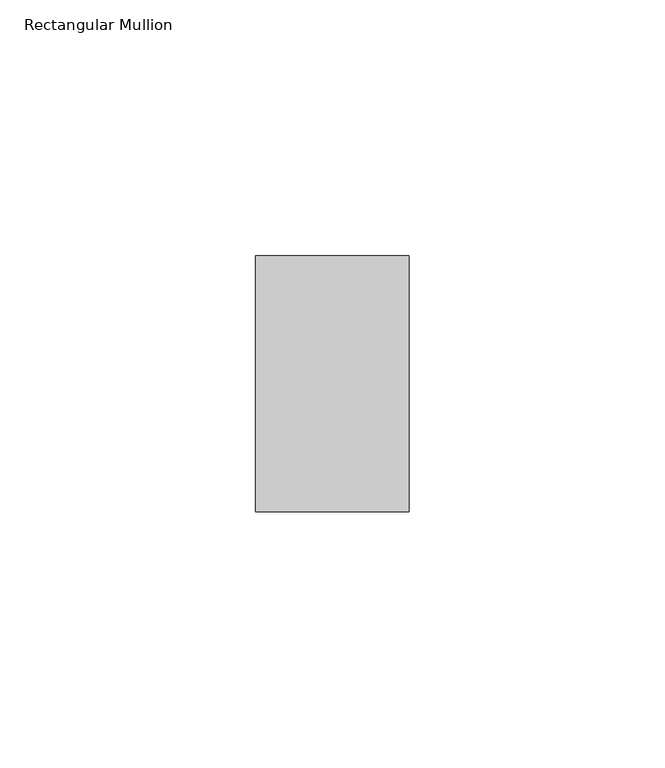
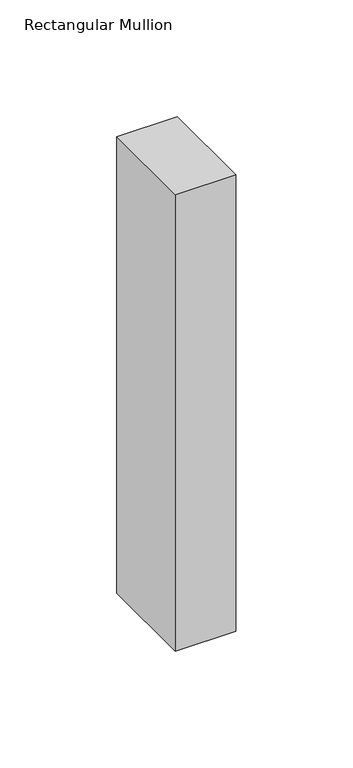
"""IFC4 building model written with IfcOpenShell, lengths in millimetres: member geometry, Rectangular Mullion : ARQ_TV_MULL_50x30mm."""

import ifcopenshell
import ifcopenshell.guid

model = None  # the IFC model being written
_history = None  # IfcOwnerHistory: only IFC2X3 demands one
_inside = {}  # id of a spatial element -> (the spatial element, [elements in it])
_under = {}  # id of a project, library or spatial element -> (it, [spatial elements below it])
_declared = {}  # id of a project -> (the project, [libraries it declares])
_typed = {}  # id of a type object -> (the type object, [elements of that type])
_made_of = {}  # id of a material, layer set ... -> (it, [elements and type objects made of it])


def new_model(schema):
    """Start an empty IFC model of exactly this schema.

    Asked for "IFC4X3", IfcOpenShell would pick the latest addendum, in which some entities
    have other attributes; the version numbers below select the first issue.
    IFC2X3 requires an IfcOwnerHistory on every rooted entity: one is made here for all.
    """
    global model, _history
    if schema == "IFC4X3":
        model = ifcopenshell.file(schema_version=(4, 3, 0, 0))
    else:
        model = ifcopenshell.file(schema=schema)
    _inside.clear()
    _under.clear()
    _declared.clear()
    _typed.clear()
    _made_of.clear()
    _history = None
    if model.schema == "IFC2X3":
        org = make("IfcOrganization", Name="unknown")
        user = make(
            "IfcPersonAndOrganization",
            ThePerson=make("IfcPerson", FamilyName="unknown"),
            TheOrganization=org,
        )
        app = make(
            "IfcApplication",
            ApplicationDeveloper=org,
            Version="unknown",
            ApplicationFullName="unknown",
            ApplicationIdentifier="unknown",
        )
        _history = make(
            "IfcOwnerHistory",
            OwningUser=user,
            OwningApplication=app,
            ChangeAction="ADDED",
            CreationDate=0,
        )
    return model


def make(cls, **values):
    """One entity of the class cls with the attributes given. An attribute that is None is left unset."""
    return model.create_entity(
        cls, **{name: value for name, value in values.items() if value is not None}
    )


def rooted(cls, **values):
    """An entity with a GlobalId (a new one), such as an element, a storey or a relation."""
    return make(cls, GlobalId=ifcopenshell.guid.new(), OwnerHistory=_history, **values)


def si_unit(unit_type, name, prefix=None):
    """IfcSIUnit, for example si_unit("LENGTHUNIT", "METRE", prefix="MILLI")."""
    return make("IfcSIUnit", UnitType=unit_type, Prefix=prefix, Name=name)


def assignment(units):
    """IfcUnitAssignment: the units of a project."""
    return None if units is None else make("IfcUnitAssignment", Units=units)


def point(xyz):
    """IfcCartesianPoint."""
    return None if xyz is None else make("IfcCartesianPoint", Coordinates=xyz)


def direction(xyz):
    """IfcDirection."""
    return None if xyz is None else make("IfcDirection", DirectionRatios=xyz)


def frame(location, z_axis=None, x_axis=None):
    """IfcAxis2Placement3D, a coordinate frame: its origin and axes. An axis left out is left unset."""
    return make(
        "IfcAxis2Placement3D",
        Location=point(location),
        Axis=direction(z_axis),
        RefDirection=direction(x_axis),
    )


def origin():
    """The frame at (0, 0, 0) with its axes left unset."""
    return frame((0.0, 0.0, 0.0))


def place(relative_to, where):
    """IfcLocalPlacement: puts the frame where relative to a parent placement (None: the world)."""
    return make(
        "IfcLocalPlacement", PlacementRelTo=relative_to, RelativePlacement=where
    )


def context(
    kind, dimensions, precision=None, world=None, true_north=None, identifier=None
):
    """IfcGeometricRepresentationContext, for example the 3D "Model" context."""
    return make(
        "IfcGeometricRepresentationContext",
        ContextIdentifier=identifier,
        ContextType=kind,
        CoordinateSpaceDimension=dimensions,
        Precision=precision,
        WorldCoordinateSystem=world,
        TrueNorth=true_north,
    )


def project(units=None, contexts=None):
    """IfcProject with its units and contexts."""
    return rooted(
        "IfcProject",
        Name="project",
        RepresentationContexts=contexts,
        UnitsInContext=assignment(units),
    )


def spatial(cls, under=None, at=None, **own):
    """A site, building, storey or space (cls), placed at a placement, below another one or the project."""
    s = rooted(cls, ObjectPlacement=at, **own)
    if under is not None:
        _under.setdefault(under.id(), (under, []))[1].append(s)
    return s


def polyline(points):
    """IfcPolyline through the points."""
    return make("IfcPolyline", Points=[point(p) for p in points])


def outline(outer, holes=None, kind="AREA"):
    """IfcArbitraryClosedProfileDef: a profile drawn as a closed curve; with holes, ...WithVoids."""
    if holes is None:
        return make("IfcArbitraryClosedProfileDef", ProfileType=kind, OuterCurve=outer)
    return make(
        "IfcArbitraryProfileDefWithVoids",
        ProfileType=kind,
        OuterCurve=outer,
        InnerCurves=holes,
    )


def extrude(swept, where, along, depth):
    """IfcExtrudedAreaSolid: the profile swept, set in the frame where, extruded along a direction by depth."""
    return make(
        "IfcExtrudedAreaSolid",
        SweptArea=swept,
        Position=where,
        ExtrudedDirection=direction(along),
        Depth=depth,
    )


def shape(context_of_items, identifier, shape_type, items):
    """IfcShapeRepresentation: the items that make up one representation, for example the "Body"."""
    return make(
        "IfcShapeRepresentation",
        ContextOfItems=context_of_items,
        RepresentationIdentifier=identifier,
        RepresentationType=shape_type,
        Items=items,
    )


def source(mapping_origin, context_of_items, identifier, shape_type, items):
    """IfcRepresentationMap: a shape defined once, which mapped items show again and again."""
    return make(
        "IfcRepresentationMap",
        MappingOrigin=mapping_origin,
        MappedRepresentation=shape(context_of_items, identifier, shape_type, items),
    )


def transform(
    local_origin,
    x_axis=None,
    y_axis=None,
    z_axis=None,
    scale=None,
    scale2=None,
    scale3=None,
    uniform=True,
):
    """IfcCartesianTransformationOperator3D, or its non-uniform kind. x_axis, y_axis, z_axis: its Axis1, 2, 3."""
    if uniform:
        return make(
            "IfcCartesianTransformationOperator3D",
            Axis1=direction(x_axis),
            Axis2=direction(y_axis),
            LocalOrigin=point(local_origin),
            Scale=scale,
            Axis3=direction(z_axis),
        )
    return make(
        "IfcCartesianTransformationOperator3DnonUniform",
        Axis1=direction(x_axis),
        Axis2=direction(y_axis),
        LocalOrigin=point(local_origin),
        Scale=scale,
        Axis3=direction(z_axis),
        Scale2=scale2,
        Scale3=scale3,
    )


def mapped(mapping_source, mapping_target):
    """IfcMappedItem: shows the shape of a source again, moved by a transform."""
    return make(
        "IfcMappedItem", MappingSource=mapping_source, MappingTarget=mapping_target
    )


def made_of(thing, what):
    """Note that an element or type object is made of a material, layer set ...; save() writes the relation."""
    if what is not None:
        _made_of.setdefault(what.id(), (what, []))[1].append(thing)
    return thing


def element(
    cls,
    number,
    at=None,
    inside=None,
    cuts=None,
    type_object=None,
    material=None,
    context=None,
    identifier="Body",
    shape_type=None,
    held_by="IfcProductDefinitionShape",
    body=None,
    shapes=None,
    **own,
):
    """One element of the class cls, such as IfcWall. Its Tag is "e" and its number.

    at: its placement. inside: the storey or other place that contains it. cuts: it is an
    opening in that element (IfcRelVoidsElement). A single representation is given by context,
    identifier, shape_type and body (its items); several are given by shapes. held_by: the class
    of the entity that holds the representations. save() writes the other relations.
    """
    e = rooted(cls, Tag="e%d" % number, ObjectPlacement=at, **own)
    if body is not None:
        shapes = [shape(context, identifier, shape_type, body)]
    if shapes is not None:
        e.Representation = make(held_by, Representations=shapes)
    if inside is not None:
        _inside.setdefault(inside.id(), (inside, []))[1].append(e)
    if cuts is not None:
        rooted(
            "IfcRelVoidsElement", RelatingBuildingElement=cuts, RelatedOpeningElement=e
        )
    if type_object is not None:
        _typed.setdefault(type_object.id(), (type_object, []))[1].append(e)
    return made_of(e, material)


def aggregate(whole, parts):
    """IfcRelAggregates: a whole, such as a stair, and the parts it consists of."""
    return rooted("IfcRelAggregates", RelatingObject=whole, RelatedObjects=parts)


def save(model, path):
    """Write the relations noted so far, then the file.

    IfcRelAggregates (storeys below a building ...), IfcRelContainedInSpatialStructure (elements
    in a storey), IfcRelDefinesByType, IfcRelAssociatesMaterial and IfcRelDeclares: one each for
    every whole, place, type object, material and project.
    """
    for whole, parts in _under.values():
        aggregate(whole, parts)
    for where, things in _inside.values():
        rooted(
            "IfcRelContainedInSpatialStructure",
            RelatedElements=things,
            RelatingStructure=where,
        )
    for kind, things in _typed.values():
        rooted("IfcRelDefinesByType", RelatedObjects=things, RelatingType=kind)
    for what, things in _made_of.values():
        rooted("IfcRelAssociatesMaterial", RelatedObjects=things, RelatingMaterial=what)
    for by, libraries in _declared.values():
        rooted("IfcRelDeclares", RelatingContext=by, RelatedDefinitions=libraries)
    model.write(path)


def rectangular_mullion_da1864a4(model_context):
    return source(origin(), model_context, "Body", "SweptSolid", [
        extrude(outline(polyline([(0.0, 25.0), (0.0, -25.0), (-30.0, -25.0), (-30.0, 25.0), (0.0, 25.0)])), frame((0.0, 0.0, -238.6616676), z_axis=(0.0, 0.0, 1.0), x_axis=(1.0, 0.0, 0.0)), (0.0, 0.0, 1.0), 238.6616676),
    ])


if __name__ == "__main__":
    model = new_model("IFC4")
    model_context = context("Model", 3, world=origin())
    ifc_project = project(units=[si_unit("LENGTHUNIT", "METRE", prefix="MILLI")], contexts=[model_context])
    site = spatial("IfcSite", under=ifc_project)
    building = spatial("IfcBuilding", under=site)
    placement = place(None, origin())
    rectangular_mullion_shape = rectangular_mullion_da1864a4(model_context)
    element("IfcMember", 1, ObjectType="Rectangular Mullion : ARQ_TV_MULL_50x30mm", at=placement, inside=building, context=model_context, shape_type="MappedRepresentation", body=[
        mapped(rectangular_mullion_shape, transform((0.0, 0.0, 0.0), x_axis=(1.0, 0.0, 0.0), y_axis=(0.0, 1.0, 0.0), z_axis=(0.0, 0.0, 1.0))),
    ])
    save(model, "model.ifc")
